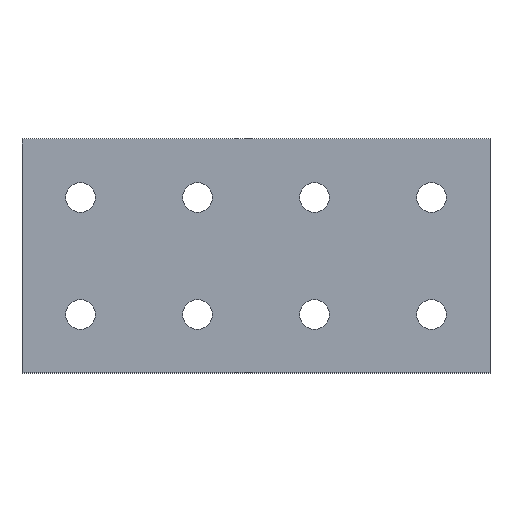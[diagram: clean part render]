
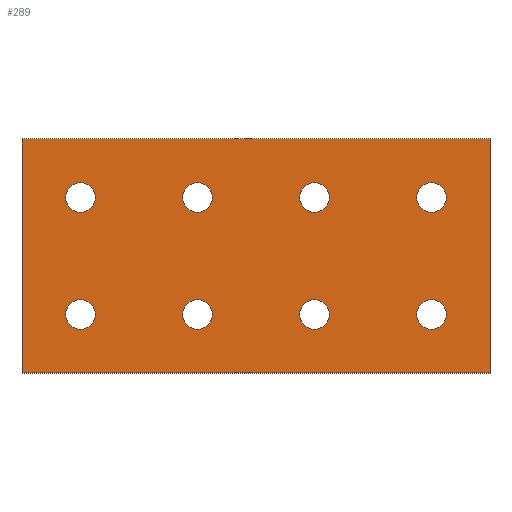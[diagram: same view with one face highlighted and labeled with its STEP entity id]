
A CAD part, top view. The second image highlights one B-rep face of the part: STEP entity #289.
In plain terms, the highlighted planar face has unit normal (0, 0, 1).
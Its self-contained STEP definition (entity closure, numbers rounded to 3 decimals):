
#15=FACE_BOUND('',#64,.T.);
#16=FACE_BOUND('',#65,.T.);
#17=FACE_BOUND('',#66,.T.);
#18=FACE_BOUND('',#67,.T.);
#19=FACE_BOUND('',#68,.T.);
#20=FACE_BOUND('',#69,.T.);
#21=FACE_BOUND('',#70,.T.);
#22=FACE_BOUND('',#71,.T.);
#35=PLANE('',#333);
#49=FACE_OUTER_BOUND('',#63,.T.);
#63=EDGE_LOOP('',(#245,#246,#247,#248));
#64=EDGE_LOOP('',(#249));
#65=EDGE_LOOP('',(#250));
#66=EDGE_LOOP('',(#251));
#67=EDGE_LOOP('',(#252));
#68=EDGE_LOOP('',(#253));
#69=EDGE_LOOP('',(#254));
#70=EDGE_LOOP('',(#255));
#71=EDGE_LOOP('',(#256));
#91=LINE('',#473,#111);
#94=LINE('',#479,#114);
#97=LINE('',#485,#117);
#100=LINE('',#489,#120);
#111=VECTOR('',#397,10.);
#114=VECTOR('',#402,10.);
#117=VECTOR('',#407,10.);
#120=VECTOR('',#412,10.);
#122=CIRCLE('',#307,2.55);
#124=CIRCLE('',#310,2.55);
#126=CIRCLE('',#313,2.55);
#128=CIRCLE('',#316,2.55);
#130=CIRCLE('',#319,2.55);
#132=CIRCLE('',#322,2.55);
#134=CIRCLE('',#325,2.55);
#136=CIRCLE('',#328,2.55);
#138=VERTEX_POINT('',#421);
#140=VERTEX_POINT('',#427);
#142=VERTEX_POINT('',#433);
#144=VERTEX_POINT('',#439);
#146=VERTEX_POINT('',#445);
#148=VERTEX_POINT('',#451);
#150=VERTEX_POINT('',#457);
#152=VERTEX_POINT('',#463);
#155=VERTEX_POINT('',#470);
#156=VERTEX_POINT('',#472);
#158=VERTEX_POINT('',#478);
#160=VERTEX_POINT('',#484);
#163=EDGE_CURVE('',#138,#138,#122,.T.);
#166=EDGE_CURVE('',#140,#140,#124,.T.);
#169=EDGE_CURVE('',#142,#142,#126,.T.);
#172=EDGE_CURVE('',#144,#144,#128,.T.);
#175=EDGE_CURVE('',#146,#146,#130,.T.);
#178=EDGE_CURVE('',#148,#148,#132,.T.);
#181=EDGE_CURVE('',#150,#150,#134,.T.);
#184=EDGE_CURVE('',#152,#152,#136,.T.);
#187=EDGE_CURVE('',#156,#155,#91,.T.);
#190=EDGE_CURVE('',#158,#156,#94,.T.);
#193=EDGE_CURVE('',#160,#158,#97,.T.);
#196=EDGE_CURVE('',#155,#160,#100,.T.);
#245=ORIENTED_EDGE('',*,*,#196,.T.);
#246=ORIENTED_EDGE('',*,*,#193,.T.);
#247=ORIENTED_EDGE('',*,*,#190,.T.);
#248=ORIENTED_EDGE('',*,*,#187,.T.);
#249=ORIENTED_EDGE('',*,*,#184,.T.);
#250=ORIENTED_EDGE('',*,*,#181,.T.);
#251=ORIENTED_EDGE('',*,*,#178,.T.);
#252=ORIENTED_EDGE('',*,*,#175,.T.);
#253=ORIENTED_EDGE('',*,*,#172,.T.);
#254=ORIENTED_EDGE('',*,*,#169,.T.);
#255=ORIENTED_EDGE('',*,*,#166,.T.);
#256=ORIENTED_EDGE('',*,*,#163,.T.);
#289=ADVANCED_FACE('',(#49,#15,#16,#17,#18,#19,#20,#21,#22),#35,.T.);
#307=AXIS2_PLACEMENT_3D('',#423,#342,#343);
#310=AXIS2_PLACEMENT_3D('',#429,#349,#350);
#313=AXIS2_PLACEMENT_3D('',#435,#356,#357);
#316=AXIS2_PLACEMENT_3D('',#441,#363,#364);
#319=AXIS2_PLACEMENT_3D('',#447,#370,#371);
#322=AXIS2_PLACEMENT_3D('',#453,#377,#378);
#325=AXIS2_PLACEMENT_3D('',#459,#384,#385);
#328=AXIS2_PLACEMENT_3D('',#465,#391,#392);
#333=AXIS2_PLACEMENT_3D('',#490,#413,#414);
#342=DIRECTION('center_axis',(0.,0.,-1.));
#343=DIRECTION('ref_axis',(0.,1.,0.));
#349=DIRECTION('center_axis',(0.,0.,-1.));
#350=DIRECTION('ref_axis',(0.,1.,0.));
#356=DIRECTION('center_axis',(0.,0.,-1.));
#357=DIRECTION('ref_axis',(0.,1.,0.));
#363=DIRECTION('center_axis',(0.,0.,-1.));
#364=DIRECTION('ref_axis',(0.,1.,0.));
#370=DIRECTION('center_axis',(0.,0.,-1.));
#371=DIRECTION('ref_axis',(0.,1.,0.));
#377=DIRECTION('center_axis',(0.,0.,-1.));
#378=DIRECTION('ref_axis',(0.,1.,0.));
#384=DIRECTION('center_axis',(0.,0.,-1.));
#385=DIRECTION('ref_axis',(0.,1.,0.));
#391=DIRECTION('center_axis',(0.,0.,-1.));
#392=DIRECTION('ref_axis',(0.,1.,0.));
#397=DIRECTION('',(0.,1.,0.));
#402=DIRECTION('',(1.,0.,0.));
#407=DIRECTION('',(0.,-1.,0.));
#412=DIRECTION('',(-1.,0.,0.));
#413=DIRECTION('center_axis',(0.,0.,1.));
#414=DIRECTION('ref_axis',(0.,1.,0.));
#421=CARTESIAN_POINT('',(-30.,-12.55,4.));
#423=CARTESIAN_POINT('Origin',(-30.,-10.,4.));
#427=CARTESIAN_POINT('',(-30.,7.45,4.));
#429=CARTESIAN_POINT('Origin',(-30.,10.,4.));
#433=CARTESIAN_POINT('',(-10.,-12.55,4.));
#435=CARTESIAN_POINT('Origin',(-10.,-10.,4.));
#439=CARTESIAN_POINT('',(10.,7.45,4.));
#441=CARTESIAN_POINT('Origin',(10.,10.,4.));
#445=CARTESIAN_POINT('',(10.,-12.55,4.));
#447=CARTESIAN_POINT('Origin',(10.,-10.,4.));
#451=CARTESIAN_POINT('',(30.,7.45,4.));
#453=CARTESIAN_POINT('Origin',(30.,10.,4.));
#457=CARTESIAN_POINT('',(-10.,7.45,4.));
#459=CARTESIAN_POINT('Origin',(-10.,10.,4.));
#463=CARTESIAN_POINT('',(30.,-12.55,4.));
#465=CARTESIAN_POINT('Origin',(30.,-10.,4.));
#470=CARTESIAN_POINT('',(40.,20.,4.));
#472=CARTESIAN_POINT('',(40.,-20.,4.));
#473=CARTESIAN_POINT('',(40.,-20.,4.));
#478=CARTESIAN_POINT('',(-40.,-20.,4.));
#479=CARTESIAN_POINT('',(-40.,-20.,4.));
#484=CARTESIAN_POINT('',(-40.,20.,4.));
#485=CARTESIAN_POINT('',(-40.,20.,4.));
#489=CARTESIAN_POINT('',(40.,20.,4.));
#490=CARTESIAN_POINT('Origin',(0.,0.,4.));
